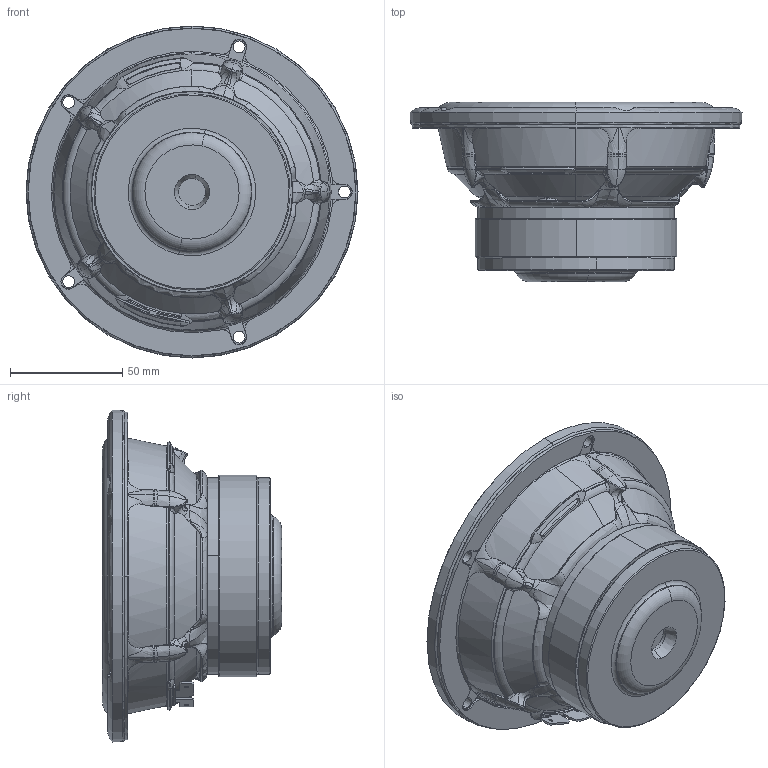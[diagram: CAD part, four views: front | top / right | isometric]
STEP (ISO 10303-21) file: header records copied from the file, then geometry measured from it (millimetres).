
FILE_DESCRIPTION (( 'STEP AP214' ), '1' );
FILE_NAME ('15W-8530K01.STEP', '2020-12-09T11:35:27', ( '' ), ( '' ), 'SwSTEP 2.0', 'SolidWorks 2019', '' );
FILE_SCHEMA (( 'AUTOMOTIVE_DESIGN' ));
Length unit declared in the file: millimetre
Products named in the file (1): 15W-8530K01
Bounding box: 148 x 79.88 x 148 mm (x, y, z)
Volume: 593026.1 mm3; surface area: 73015.6 mm2
Topology: 1 solids, 8 shells, 891 faces, 2444 edges, 1558 vertices
Faces by surface type: bspline 367, plane 171, cylinder 122, cone 118, torus 106, sphere 7
Entity records: 81038 total; most frequent: CARTESIAN_POINT 52486, ORIENTED_EDGE 4844, DIRECTION 2871, EDGE_CURVE 2422, VERTEX_POINT 1558, AXIS2_PLACEMENT_3D 1213, B_SPLINE_CURVE_WITH_KNOTS 1202, EDGE_LOOP 924
